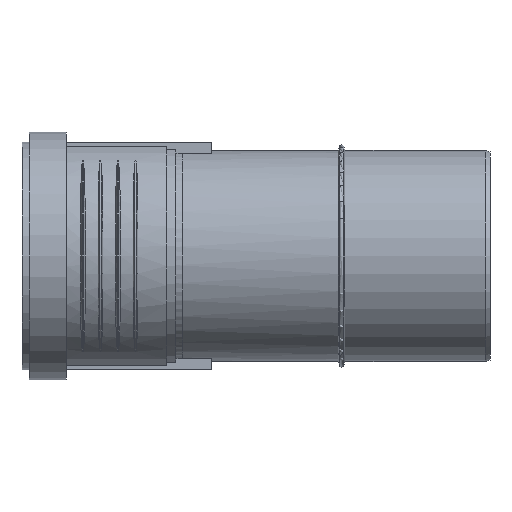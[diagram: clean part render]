
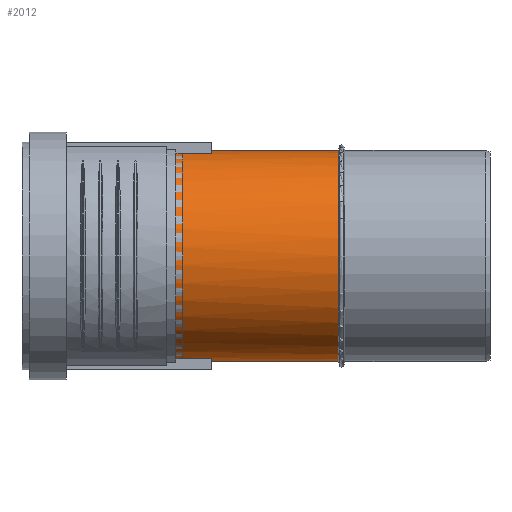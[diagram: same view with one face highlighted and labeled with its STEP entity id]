
A CAD part, left-side view. The second image highlights one B-rep face of the part: STEP entity #2012.
In plain terms, the highlighted cylindrical face has radius 45.1 mm (diameter 90.2 mm), a partial arc.
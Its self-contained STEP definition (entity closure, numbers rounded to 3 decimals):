
#261=CYLINDRICAL_SURFACE($,#2151,45.1);
#490=B_SPLINE_CURVE_WITH_KNOTS($,3,(#2988,#2989,#2990,#2991,#2992,#2993,
#2994,#2995,#2996,#2997,#2998,#2999,#3000,#3001,#3002,#3003,#3004,#3005,
#3006,#3007,#3008,#3009,#3010,#3011,#3012,#3013,#3014,#3015,#3016,#3017,
#3018),.UNSPECIFIED.,.F.,.F.,(4,2,2,2,2,2,2,2,3,2,2,2,2,2,4),(14.887,
15.07,15.535,15.999,16.464,17.041,
17.617,18.194,18.77,20.22,21.67,
22.372,23.074,23.511,23.549),
 .UNSPECIFIED.);
#491=B_SPLINE_CURVE_WITH_KNOTS($,3,(#3021,#3022,#3023,#3024,#3025,#3026,
#3027,#3028,#3029,#3030,#3031,#3032,#3033,#3034,#3035,#3036,#3037,#3038,
#3039,#3040,#3041,#3042,#3043,#3044,#3045,#3046,#3047,#3048),
 .UNSPECIFIED.,.F.,.F.,(4,2,2,2,2,2,2,2,2,2,2,2,2,4),(5.6,
5.674,6.171,7.166,8.803,10.44,
11.017,11.593,12.17,12.746,13.211,
13.676,14.14,14.323),.UNSPECIFIED.);
#596=FACE_OUTER_BOUND($,#715,.T.);
#715=EDGE_LOOP($,(#1471,#1472,#1473,#1474));
#888=CIRCLE($,#2147,45.1);
#890=CIRCLE($,#2152,45.1);
#986=VERTEX_POINT($,#2971);
#987=VERTEX_POINT($,#2972);
#989=VERTEX_POINT($,#2987);
#990=VERTEX_POINT($,#3019);
#1191=EDGE_CURVE($,#987,#986,#888,.T.);
#1193=EDGE_CURVE($,#986,#989,#490,.T.);
#1194=EDGE_CURVE($,#989,#990,#890,.T.);
#1195=EDGE_CURVE($,#990,#987,#491,.T.);
#1471=ORIENTED_EDGE($,*,*,#1191,.T.);
#1472=ORIENTED_EDGE($,*,*,#1193,.T.);
#1473=ORIENTED_EDGE($,*,*,#1194,.T.);
#1474=ORIENTED_EDGE($,*,*,#1195,.T.);
#2012=ADVANCED_FACE($,(#596),#261,.T.);
#2147=AXIS2_PLACEMENT_3D($,#2981,#2388,#2389);
#2151=AXIS2_PLACEMENT_3D($,#2986,#2396,#2397);
#2152=AXIS2_PLACEMENT_3D($,#3020,#2398,#2399);
#2388=DIRECTION('center_axis',(0.,1.,0.));
#2389=DIRECTION('ref_axis',(1.,0.,0.));
#2396=DIRECTION('center_axis',(0.,1.,0.));
#2397=DIRECTION('ref_axis',(1.,0.,0.));
#2398=DIRECTION('center_axis',(0.,-1.,0.));
#2399=DIRECTION('ref_axis',(1.,0.,0.));
#2971=CARTESIAN_POINT('',(45.009,64.85,2.868));
#2972=CARTESIAN_POINT('',(45.009,64.85,-2.868));
#2981=CARTESIAN_POINT('Origin',(0.,64.85,0.));
#2986=CARTESIAN_POINT('Origin',(0.,0.,0.));
#2987=CARTESIAN_POINT('',(44.914,134.97,4.092));
#2988=CARTESIAN_POINT('Ctrl Pts',(45.009,64.85,2.868));
#2989=CARTESIAN_POINT('Ctrl Pts',(44.969,64.912,3.492));
#2990=CARTESIAN_POINT('Ctrl Pts',(44.916,64.994,4.118));
#2991=CARTESIAN_POINT('Ctrl Pts',(44.682,65.364,6.334));
#2992=CARTESIAN_POINT('Ctrl Pts',(44.427,65.77,7.916));
#2993=CARTESIAN_POINT('Ctrl Pts',(43.779,66.86,10.944));
#2994=CARTESIAN_POINT('Ctrl Pts',(43.386,67.547,12.394));
#2995=CARTESIAN_POINT('Ctrl Pts',(42.532,69.166,15.067));
#2996=CARTESIAN_POINT('Ctrl Pts',(42.071,70.1,16.29));
#2997=CARTESIAN_POINT('Ctrl Pts',(41.062,72.376,18.709));
#2998=CARTESIAN_POINT('Ctrl Pts',(40.485,73.838,19.907));
#2999=CARTESIAN_POINT('Ctrl Pts',(39.43,77.092,21.922));
#3000=CARTESIAN_POINT('Ctrl Pts',(38.954,78.885,22.74));
#3001=CARTESIAN_POINT('Ctrl Pts',(38.199,82.657,23.988));
#3002=CARTESIAN_POINT('Ctrl Pts',(37.918,84.642,24.42));
#3003=CARTESIAN_POINT('Ctrl Pts',(37.562,88.631,24.964));
#3004=CARTESIAN_POINT('Ctrl Pts',(37.487,90.635,25.075));
#3005=CARTESIAN_POINT('Ctrl Pts',(37.487,92.557,25.075));
#3006=CARTESIAN_POINT('Ctrl Pts',(37.487,97.391,25.075));
#3007=CARTESIAN_POINT('Ctrl Pts',(37.976,102.578,24.372));
#3008=CARTESIAN_POINT('Ctrl Pts',(39.492,112.607,21.831));
#3009=CARTESIAN_POINT('Ctrl Pts',(40.502,117.451,19.991));
#3010=CARTESIAN_POINT('Ctrl Pts',(41.936,123.628,16.637));
#3011=CARTESIAN_POINT('Ctrl Pts',(42.46,125.756,15.293));
#3012=CARTESIAN_POINT('Ctrl Pts',(43.457,129.64,12.174));
#3013=CARTESIAN_POINT('Ctrl Pts',(43.928,131.394,10.394));
#3014=CARTESIAN_POINT('Ctrl Pts',(44.517,133.548,7.325));
#3015=CARTESIAN_POINT('Ctrl Pts',(44.731,134.316,5.943));
#3016=CARTESIAN_POINT('Ctrl Pts',(44.89,134.884,4.349));
#3017=CARTESIAN_POINT('Ctrl Pts',(44.902,134.928,4.221));
#3018=CARTESIAN_POINT('Ctrl Pts',(44.914,134.97,4.092));
#3019=CARTESIAN_POINT('',(44.914,134.97,-4.092));
#3020=CARTESIAN_POINT('Origin',(0.,134.97,0.));
#3021=CARTESIAN_POINT('Ctrl Pts',(44.914,134.97,-4.092));
#3022=CARTESIAN_POINT('Ctrl Pts',(44.893,134.894,-4.325));
#3023=CARTESIAN_POINT('Ctrl Pts',(44.87,134.813,-4.556));
#3024=CARTESIAN_POINT('Ctrl Pts',(44.683,134.144,-6.308));
#3025=CARTESIAN_POINT('Ctrl Pts',(44.45,133.306,-7.752));
#3026=CARTESIAN_POINT('Ctrl Pts',(43.622,130.264,-11.775));
#3027=CARTESIAN_POINT('Ctrl Pts',(42.899,127.522,-14.047));
#3028=CARTESIAN_POINT('Ctrl Pts',(41.134,120.337,-18.757));
#3029=CARTESIAN_POINT('Ctrl Pts',(39.937,114.994,-21.033));
#3030=CARTESIAN_POINT('Ctrl Pts',(38.105,103.835,-24.193));
#3031=CARTESIAN_POINT('Ctrl Pts',(37.487,98.014,-25.075));
#3032=CARTESIAN_POINT('Ctrl Pts',(37.487,90.635,-25.075));
#3033=CARTESIAN_POINT('Ctrl Pts',(37.562,88.631,-24.964));
#3034=CARTESIAN_POINT('Ctrl Pts',(37.918,84.642,-24.42));
#3035=CARTESIAN_POINT('Ctrl Pts',(38.199,82.657,-23.988));
#3036=CARTESIAN_POINT('Ctrl Pts',(38.954,78.885,-22.74));
#3037=CARTESIAN_POINT('Ctrl Pts',(39.43,77.092,-21.922));
#3038=CARTESIAN_POINT('Ctrl Pts',(40.485,73.838,-19.907));
#3039=CARTESIAN_POINT('Ctrl Pts',(41.062,72.376,-18.709));
#3040=CARTESIAN_POINT('Ctrl Pts',(42.071,70.1,-16.29));
#3041=CARTESIAN_POINT('Ctrl Pts',(42.532,69.166,-15.067));
#3042=CARTESIAN_POINT('Ctrl Pts',(43.386,67.547,-12.394));
#3043=CARTESIAN_POINT('Ctrl Pts',(43.779,66.86,-10.944));
#3044=CARTESIAN_POINT('Ctrl Pts',(44.427,65.77,-7.916));
#3045=CARTESIAN_POINT('Ctrl Pts',(44.682,65.364,-6.334));
#3046=CARTESIAN_POINT('Ctrl Pts',(44.916,64.994,-4.118));
#3047=CARTESIAN_POINT('Ctrl Pts',(44.969,64.912,-3.492));
#3048=CARTESIAN_POINT('Ctrl Pts',(45.009,64.85,-2.868));
